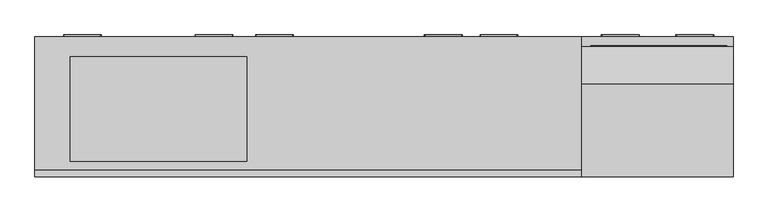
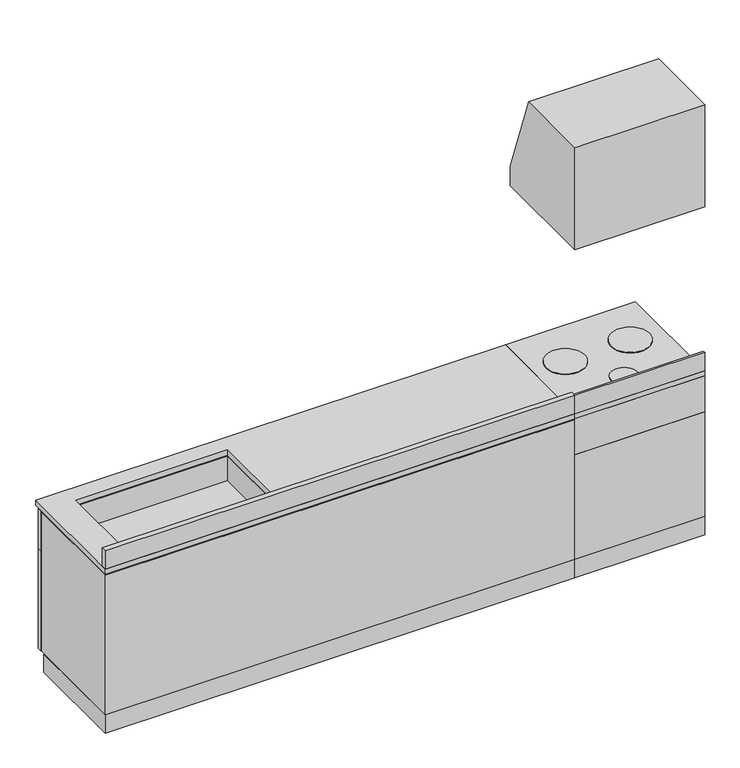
"""IFC4 building model written with IfcOpenShell, lengths in millimetres: flow terminal geometry."""

from ifc_helpers import new_model, si_unit, point, frame, frame_2d, origin, place, context, project, spatial, polyline, circle_curve, ellipse_curve, trimmed, segment, composite_curve, outline, extrude, faceted_brep, source, transform, mapped, element, save
from ifc_brep_helpers import plane_surface, cylinder_surface, advanced_brep


def flow_terminal_3a985401(model_context):
    return source(origin(), model_context, "Body", "SolidModel", [
        extrude(outline(polyline([(0.0, 1600.0), (0.0, 2099.0082413), (369.4428062, 2099.0082413), (516.4897805, 1695.0), (516.4897805, 1600.0), (0.0, 1600.0)])), frame((-600.0, 0.0, 0.0), z_axis=(1.0, 0.0, 0.0), x_axis=(0.0, 1.0, 0.0)), (0.0, 0.0, 1.0), 600.0),
        extrude(outline(polyline([(-24.5306616, 520.5154649), (-24.5306616, 516.4897805), (-564.5306616, 516.4897805), (-564.5306616, 520.5154649), (-24.5306616, 520.5154649)])), frame((0.0, 0.0, 1619.5443084), z_axis=(0.0, 0.0, 1.0), x_axis=(1.0, 0.0, 0.0)), (0.0, 0.0, 1.0), 40.0),
        extrude(outline(polyline([(0.0, 0.0), (-600.0, 0.0), (-600.0, 9.8381791), (0.0, 9.8381791), (0.0, 0.0)])), frame((0.0, 0.0, 800.0), z_axis=(0.0, 0.0, 1.0), x_axis=(1.0, 0.0, 0.0)), (0.0, 0.0, 1.0), 90.0),
        extrude(outline(polyline([(0.0, 0.0), (-600.0, 0.0), (-600.0, 540.0), (0.0, 540.0), (0.0, 0.0)])), frame((0.0, 0.0, 600.0), z_axis=(0.0, 0.0, 1.0), x_axis=(1.0, 0.0, 0.0)), (0.0, 0.0, 1.0), 175.0),
        faceted_brep([(0.0, 0.0, 600.0), (0.0, 516.4897805, 600.0), (-600.0, 516.4897805, 600.0), (-600.0, 0.0, 600.0), (-600.0, 0.0, 88.5), (-600.0, 540.0, 88.5), (-307.8169644, 540.0, 88.5), (-307.8169644, 516.4897805, 88.5), (-292.8169644, 516.4897805, 88.5), (-292.8169644, 540.0, 88.5), (0.0, 540.0, 88.5), (0.0, 0.0, 88.5), (-600.0, 516.4897805, 590.0), (-600.0, 540.0, 590.0), (-292.8169644, 540.0, 590.0), (0.0, 540.0, 590.0), (-307.8169644, 540.0, 590.0), (0.0, 516.4897805, 590.0), (-307.8169644, 516.4897805, 590.0), (-292.8169644, 516.4897805, 590.0)], [[[0, 1, 2, 3]], [[4, 5, 6, 7, 8, 9, 10, 11]], [[4, 3, 2, 12, 13, 5]], [[9, 14, 15, 10]], [[5, 13, 16, 6]], [[10, 15, 17, 1, 0, 11]], [[3, 4, 11, 0]], [[18, 12, 2, 1, 17, 19, 8, 7]], [[18, 16, 13, 12]], [[17, 15, 14, 19]], [[19, 14, 9, 8]], [[7, 6, 16, 18]]]),
        extrude(outline(composite_curve([segment(trimmed(circle_curve(frame_2d((-300.0, 124.5419688)), 60.0), [point((-360.0, 124.5419688))], [point((-240.0, 124.5419688))], False, "CARTESIAN"), True, "CONTINUOUS"), segment(trimmed(circle_curve(frame_2d((-300.0, 124.5419688)), 60.0), [point((-240.0, 124.5419688))], [point((-360.0, 124.5419688))], False, "CARTESIAN"), True, "CONTINUOUS")], self_intersect=False)), frame((0.0, 0.0, 800.0), z_axis=(0.0, 0.0, 1.0), x_axis=(1.0, 0.0, 0.0)), (0.0, 0.0, 1.0), 3.4559593),
        extrude(outline(composite_curve([segment(trimmed(circle_curve(frame_2d((-152.4677396, 331.6593351)), 89.0934112), [point((-241.5611508, 331.6593351))], [point((-63.3743285, 331.6593351))], False, "CARTESIAN"), True, "CONTINUOUS"), segment(trimmed(circle_curve(frame_2d((-152.4677396, 331.6593351)), 89.0934112), [point((-63.3743285, 331.6593351))], [point((-241.5611508, 331.6593351))], False, "CARTESIAN"), True, "CONTINUOUS")], self_intersect=False)), frame((0.0, 0.0, 800.0), z_axis=(0.0, 0.0, 1.0), x_axis=(1.0, 0.0, 0.0)), (0.0, 0.0, 1.0), 3.4559593),
        extrude(outline(composite_curve([segment(trimmed(circle_curve(frame_2d((-452.4677396, 331.6593351)), 89.0934112), [point((-541.5611508, 331.6593351))], [point((-363.3743285, 331.6593351))], False, "CARTESIAN"), True, "CONTINUOUS"), segment(trimmed(circle_curve(frame_2d((-452.4677396, 331.6593351)), 89.0934112), [point((-363.3743285, 331.6593351))], [point((-541.5611508, 331.6593351))], False, "CARTESIAN"), True, "CONTINUOUS")], self_intersect=False)), frame((0.0, 0.0, 800.0), z_axis=(0.0, 0.0, 1.0), x_axis=(1.0, 0.0, 0.0)), (0.0, 0.0, 1.0), 3.4559593),
        extrude(outline(polyline([(0.0, 0.0), (-600.0, 0.0), (-600.0, 555.0), (0.0, 555.0), (0.0, 0.0)])), frame((0.0, 0.0, 775.0), z_axis=(0.0, 0.0, 1.0), x_axis=(1.0, 0.0, 0.0)), (0.0, 0.0, 1.0), 25.0),
        advanced_brep(
        [(-227.6629348, 537.5962435, 549.478406), (-217.6629348, 537.5962435, 549.478406), (-217.6629348, 552.5962435, 549.478406), (-227.6629348, 562.5962435, 549.478406), (-87.6629348, 552.5962435, 549.478406), (-77.6629348, 562.5962435, 549.478406), (-77.6629348, 537.5962435, 549.478406), (-87.6629348, 537.5962435, 549.478406)],
        [
            (0, 1, circle_curve(frame((-222.6629348, 537.5962435, 549.478406), z_axis=(0.0, -1.0, 0.0), x_axis=(1.0, 0.0, 0.0)), 5.0)),
            (1, 0, circle_curve(frame((-222.6629348, 537.5962435, 549.478406), z_axis=(0.0, -1.0, 0.0), x_axis=(1.0, 0.0, 0.0)), 5.0)),
            (1, 2),
            (2, 3, ellipse_curve(frame((-222.6629348, 557.5962435, 549.478406), z_axis=(-0.7071067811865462, -0.7071067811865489, 0.0), x_axis=(0.707106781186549, -0.707106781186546, 0.0)), 7.0710678, 5.0)),
            (3, 0),
            (3, 2, ellipse_curve(frame((-222.6629348, 557.5962435, 549.478406), z_axis=(-0.7071067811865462, -0.7071067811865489, 0.0), x_axis=(0.707106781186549, -0.707106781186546, 0.0)), 7.0710678, 5.0)),
            (2, 4),
            (4, 5, ellipse_curve(frame((-82.6629348, 557.5962435, 549.478406), z_axis=(-0.7071067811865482, 0.7071067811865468, 0.0), x_axis=(-0.7071067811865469, -0.7071067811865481, 0.0)), 7.0710678, 5.0)),
            (5, 3),
            (5, 4, ellipse_curve(frame((-82.6629348, 557.5962435, 549.478406), z_axis=(-0.7071067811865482, 0.7071067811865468, 0.0), x_axis=(-0.7071067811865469, -0.7071067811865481, 0.0)), 7.0710678, 5.0)),
            (6, 7, circle_curve(frame((-82.6629348, 537.5962435, 549.478406), z_axis=(0.0, -1.0, 0.0), x_axis=(-1.0, 0.0, 0.0)), 5.0)),
            (7, 6, circle_curve(frame((-82.6629348, 537.5962435, 549.478406), z_axis=(0.0, -1.0, 0.0), x_axis=(-1.0, 0.0, 0.0)), 5.0)),
            (4, 7),
            (6, 5),
        ],
        [
            plane_surface(frame((-222.6629348, 537.5962435, 0.0), z_axis=(0.0, -1.0, 0.0), x_axis=(0.0, 0.0, 1.0))),
            cylinder_surface(frame((-222.6629348, 537.5962435, 549.478406), z_axis=(0.0, -1.0, 0.0), x_axis=(1.0, 0.0, 0.0)), 5.0),
            cylinder_surface(frame((-222.6629348, 557.5962435, 549.478406), z_axis=(-1.0, 0.0, 0.0), x_axis=(0.0, -1.0, 0.0)), 5.0),
            plane_surface(frame((-82.6629348, 537.5962435, 0.0), z_axis=(0.0, -1.0, 0.0), x_axis=(0.0, 0.0, 1.0))),
            cylinder_surface(frame((-82.6629348, 557.5962435, 549.478406), z_axis=(0.0, 1.0, 0.0), x_axis=(-1.0, 0.0, 0.0)), 5.0),
        ],
        [
            (0, [[1, 2]]),
            (1, [[3, 4, 5, -2]]),
            (1, [[-5, 6, -3, -1]]),
            (2, [[7, 8, 9, -4]]),
            (2, [[-9, 10, -7, -6]]),
            (3, [[11, 12]]),
            (4, [[13, -11, 14, -8]]),
            (4, [[-14, -12, -13, -10]]),
        ],
    ),
        advanced_brep(
        [(-522.1659599, 537.5962435, 552.9843944), (-512.1659599, 537.5962435, 552.9843944), (-512.1659599, 552.5962435, 552.9843944), (-522.1659599, 562.5962435, 552.9843944), (-382.1659599, 552.5962435, 552.9843944), (-372.1659599, 562.5962435, 552.9843944), (-372.1659599, 537.5962435, 552.9843944), (-382.1659599, 537.5962435, 552.9843944)],
        [
            (0, 1, circle_curve(frame((-517.1659599, 537.5962435, 552.9843944), z_axis=(0.0, -1.0, 0.0), x_axis=(1.0, 0.0, 0.0)), 5.0)),
            (1, 0, circle_curve(frame((-517.1659599, 537.5962435, 552.9843944), z_axis=(0.0, -1.0, 0.0), x_axis=(1.0, 0.0, 0.0)), 5.0)),
            (1, 2),
            (2, 3, ellipse_curve(frame((-517.1659599, 557.5962435, 552.9843944), z_axis=(-0.7071067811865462, -0.7071067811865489, 0.0), x_axis=(0.707106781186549, -0.707106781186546, 0.0)), 7.0710678, 5.0)),
            (3, 0),
            (3, 2, ellipse_curve(frame((-517.1659599, 557.5962435, 552.9843944), z_axis=(-0.7071067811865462, -0.7071067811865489, 0.0), x_axis=(0.707106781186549, -0.707106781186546, 0.0)), 7.0710678, 5.0)),
            (2, 4),
            (4, 5, ellipse_curve(frame((-377.1659599, 557.5962435, 552.9843944), z_axis=(-0.7071067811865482, 0.7071067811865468, 0.0), x_axis=(-0.7071067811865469, -0.7071067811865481, 0.0)), 7.0710678, 5.0)),
            (5, 3),
            (5, 4, ellipse_curve(frame((-377.1659599, 557.5962435, 552.9843944), z_axis=(-0.7071067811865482, 0.7071067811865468, 0.0), x_axis=(-0.7071067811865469, -0.7071067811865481, 0.0)), 7.0710678, 5.0)),
            (6, 7, circle_curve(frame((-377.1659599, 537.5962435, 552.9843944), z_axis=(0.0, -1.0, 0.0), x_axis=(-1.0, 0.0, 0.0)), 5.0)),
            (7, 6, circle_curve(frame((-377.1659599, 537.5962435, 552.9843944), z_axis=(0.0, -1.0, 0.0), x_axis=(-1.0, 0.0, 0.0)), 5.0)),
            (4, 7),
            (6, 5),
        ],
        [
            plane_surface(frame((-517.1659599, 537.5962435, 0.0), z_axis=(0.0, -1.0, 0.0), x_axis=(0.0, 0.0, 1.0))),
            cylinder_surface(frame((-517.1659599, 537.5962435, 552.9843944), z_axis=(0.0, -1.0, 0.0), x_axis=(1.0, 0.0, 0.0)), 5.0),
            cylinder_surface(frame((-517.1659599, 557.5962435, 552.9843944), z_axis=(-1.0, 0.0, 0.0), x_axis=(0.0, -1.0, 0.0)), 5.0),
            plane_surface(frame((-377.1659599, 537.5962435, 0.0), z_axis=(0.0, -1.0, 0.0), x_axis=(0.0, 0.0, 1.0))),
            cylinder_surface(frame((-377.1659599, 557.5962435, 552.9843944), z_axis=(0.0, 1.0, 0.0), x_axis=(-1.0, 0.0, 0.0)), 5.0),
        ],
        [
            (0, [[1, 2]]),
            (1, [[3, 4, 5, -2]]),
            (1, [[-5, 6, -3, -1]]),
            (2, [[7, 8, 9, -4]]),
            (2, [[-9, 10, -7, -6]]),
            (3, [[11, 12]]),
            (4, [[13, -11, 14, -8]]),
            (4, [[-14, -12, -13, -10]]),
        ],
    ),
        extrude(outline(polyline([(0.0, 0.0), (-600.0, 0.0), (-600.0, 490.0), (0.0, 490.0), (0.0, 0.0)])), frame((0.0, 0.0, -0.5), z_axis=(0.0, 0.0, 1.0), x_axis=(1.0, 0.0, 0.0)), (0.0, 0.0, 1.0), 89.0),
        advanced_brep(
        [(-1225.0760722, 537.5962435, 714.2598605), (-1215.0760722, 537.5962435, 714.2598605), (-1225.0760722, 562.5962435, 714.2598605), (-1215.0760722, 552.5962435, 714.2598605), (-1075.0760722, 562.5962435, 714.2598605), (-1085.0760722, 552.5962435, 714.2598605), (-1075.0760722, 537.5962435, 714.2598605), (-1085.0760722, 537.5962435, 714.2598605)],
        [
            (0, 1, circle_curve(frame((-1220.0760722, 537.5962435, 714.2598605), z_axis=(0.0, -1.0, 0.0), x_axis=(1.0, 0.0, 0.0)), 5.0)),
            (1, 0, circle_curve(frame((-1220.0760722, 537.5962435, 714.2598605), z_axis=(0.0, -1.0, 0.0), x_axis=(1.0, 0.0, 0.0)), 5.0)),
            (0, 2),
            (2, 3, ellipse_curve(frame((-1220.0760722, 557.5962435, 714.2598605), z_axis=(-0.7071067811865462, -0.7071067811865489, 0.0), x_axis=(0.707106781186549, -0.707106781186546, 0.0)), 7.0710678, 5.0)),
            (3, 1),
            (3, 2, ellipse_curve(frame((-1220.0760722, 557.5962435, 714.2598605), z_axis=(-0.7071067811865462, -0.7071067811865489, 0.0), x_axis=(0.707106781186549, -0.707106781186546, 0.0)), 7.0710678, 5.0)),
            (2, 4),
            (4, 5, ellipse_curve(frame((-1080.0760722, 557.5962435, 714.2598605), z_axis=(-0.7071067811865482, 0.7071067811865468, 0.0), x_axis=(-0.7071067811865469, -0.7071067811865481, 0.0)), 7.0710678, 5.0)),
            (5, 3),
            (5, 4, ellipse_curve(frame((-1080.0760722, 557.5962435, 714.2598605), z_axis=(-0.7071067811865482, 0.7071067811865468, 0.0), x_axis=(-0.7071067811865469, -0.7071067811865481, 0.0)), 7.0710678, 5.0)),
            (6, 7, circle_curve(frame((-1080.0760722, 537.5962435, 714.2598605), z_axis=(0.0, -1.0, 0.0), x_axis=(-1.0, 0.0, 0.0)), 5.0)),
            (7, 6, circle_curve(frame((-1080.0760722, 537.5962435, 714.2598605), z_axis=(0.0, -1.0, 0.0), x_axis=(-1.0, 0.0, 0.0)), 5.0)),
            (4, 6),
            (7, 5),
        ],
        [
            plane_surface(frame((-1220.0760722, 537.5962435, 0.0), z_axis=(0.0, -1.0, 0.0), x_axis=(0.0, 0.0, 1.0))),
            cylinder_surface(frame((-1220.0760722, 537.5962435, 714.2598605), z_axis=(0.0, -1.0, 0.0), x_axis=(1.0, 0.0, 0.0)), 5.0),
            cylinder_surface(frame((-1220.0760722, 557.5962435, 714.2598605), z_axis=(-1.0, 0.0, 0.0), x_axis=(0.0, -1.0, 0.0)), 5.0),
            plane_surface(frame((-1080.0760722, 537.5962435, 0.0), z_axis=(0.0, -1.0, 0.0), x_axis=(0.0, 0.0, 1.0))),
            cylinder_surface(frame((-1080.0760722, 557.5962435, 714.2598605), z_axis=(0.0, 1.0, 0.0), x_axis=(-1.0, 0.0, 0.0)), 5.0),
        ],
        [
            (0, [[1, 2]]),
            (1, [[-1, 3, 4, 5]]),
            (1, [[-2, -5, 6, -3]]),
            (2, [[-4, 7, 8, 9]]),
            (2, [[-6, -9, 10, -7]]),
            (3, [[11, 12]]),
            (4, [[-8, 13, -12, 14]]),
            (4, [[-10, -14, -11, -13]]),
        ],
    ),
        extrude(outline(polyline([(-1041.0, 536.4897805), (-1041.0, 516.4897805), (-1488.0, 516.4897805), (-1488.0, 536.4897805), (-1041.0, 536.4897805)])), frame((0.0, 0.0, 89.0), z_axis=(0.0, 0.0, 1.0), x_axis=(1.0, 0.0, 0.0)), (0.0, 0.0, 1.0), 686.0),
        faceted_brep([(-1930.5, 61.4897805, 650.0), (-2630.5, 61.4897805, 650.0), (-2630.5, 61.4897805, 770.0), (-1930.5, 61.4897805, 770.0), (-1930.5, 476.3747196, 650.0), (-1930.5, 476.3747196, 770.0), (-2630.5, 476.3747196, 650.0), (-2630.5, 476.3747196, 770.0), (-2735.8267278, 25.0, 770.0), (-1721.4018118, 25.0, 770.0), (-1721.4018118, 490.0, 770.0), (-2735.8267278, 490.0, 770.0), (-2735.8267278, 25.0, 481.2861972), (-2735.8267278, 490.0, 481.2861972), (-1721.4018118, 490.0, 481.2861972), (-1721.4018118, 25.0, 481.2861972)], [[[0, 1, 2, 3]], [[4, 0, 3, 5]], [[6, 4, 5, 7]], [[1, 6, 7, 2]], [[8, 9, 10, 11], [3, 2, 7, 5]], [[12, 13, 14, 15]], [[9, 8, 12, 15]], [[10, 9, 15, 14]], [[11, 10, 14, 13]], [[8, 11, 13, 12]], [[1, 0, 4, 6]]]),
        extrude(outline(polyline([(-2770.0, 0.0), (-2770.0, 508.8242978), (-600.0, 508.8242978), (-600.0, 0.0), (-2770.0, 0.0)]), holes=[polyline([(-2735.8267278, 25.0), (-649.0, 25.0), (-649.0, 490.0), (-2735.8267278, 490.0), (-2735.8267278, 25.0)])]), frame((0.0, 0.0, 90.0), z_axis=(0.0, 0.0, 1.0), x_axis=(1.0, 0.0, 0.0)), (0.0, 0.0, 1.0), 680.0),
        extrude(outline(polyline([(-2770.0, 0.0), (-2770.0, 555.0), (-600.0, 555.0), (-600.0, 0.0), (-2770.0, 0.0)]), holes=[polyline([(-2630.5, 61.4897805), (-1930.5, 61.4897805), (-1930.5, 476.3747196), (-2630.5, 476.3747196), (-2630.5, 61.4897805)])]), frame((0.0, 0.0, 775.0), z_axis=(0.0, 0.0, 1.0), x_axis=(1.0, 0.0, 0.0)), (0.0, 0.0, 1.0), 25.0),
        advanced_brep(
        [(-2506.5, 537.5962435, 514.8721474), (-2516.5, 537.5962435, 514.8721474), (-2506.5, 562.5962435, 514.8721474), (-2516.5, 552.5962435, 514.8721474), (-2656.5, 562.5962435, 514.8721474), (-2646.5, 552.5962435, 514.8721474), (-2656.5, 537.5962435, 514.8721474), (-2646.5, 537.5962435, 514.8721474)],
        [
            (0, 1, circle_curve(frame((-2511.5, 537.5962435, 514.8721474), z_axis=(0.0, -1.0, 0.0), x_axis=(-1.0, 0.0, 0.0)), 5.0)),
            (1, 0, circle_curve(frame((-2511.5, 537.5962435, 514.8721474), z_axis=(0.0, -1.0, 0.0), x_axis=(-1.0, 0.0, 0.0)), 5.0)),
            (0, 2),
            (2, 3, ellipse_curve(frame((-2511.5, 557.5962435, 514.8721474), z_axis=(0.7071067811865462, -0.7071067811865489, 0.0), x_axis=(-0.707106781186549, -0.707106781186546, 0.0)), 7.0710678, 5.0)),
            (3, 1),
            (3, 2, ellipse_curve(frame((-2511.5, 557.5962435, 514.8721474), z_axis=(0.7071067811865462, -0.7071067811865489, 0.0), x_axis=(-0.707106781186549, -0.707106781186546, 0.0)), 7.0710678, 5.0)),
            (2, 4),
            (4, 5, ellipse_curve(frame((-2651.5, 557.5962435, 514.8721474), z_axis=(0.7071067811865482, 0.7071067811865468, 0.0), x_axis=(0.7071067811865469, -0.7071067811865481, 0.0)), 7.0710678, 5.0)),
            (5, 3),
            (5, 4, ellipse_curve(frame((-2651.5, 557.5962435, 514.8721474), z_axis=(0.7071067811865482, 0.7071067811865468, 0.0), x_axis=(0.7071067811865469, -0.7071067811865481, 0.0)), 7.0710678, 5.0)),
            (6, 7, circle_curve(frame((-2651.5, 537.5962435, 514.8721474), z_axis=(0.0, -1.0, 0.0), x_axis=(1.0, 0.0, 0.0)), 5.0)),
            (7, 6, circle_curve(frame((-2651.5, 537.5962435, 514.8721474), z_axis=(0.0, -1.0, 0.0), x_axis=(1.0, 0.0, 0.0)), 5.0)),
            (4, 6),
            (7, 5),
        ],
        [
            plane_surface(frame((-2511.5, 537.5962435, -199.3877131), z_axis=(0.0, -1.0, 0.0), x_axis=(0.0, 0.0, 1.0))),
            cylinder_surface(frame((-2511.5, 537.5962435, 514.8721474), z_axis=(0.0, -1.0, 0.0), x_axis=(-1.0, 0.0, 0.0)), 5.0),
            cylinder_surface(frame((-2511.5, 557.5962435, 514.8721474), z_axis=(1.0, 0.0, 0.0), x_axis=(0.0, -1.0, 0.0)), 5.0),
            plane_surface(frame((-2651.5, 537.5962435, -199.3877131), z_axis=(0.0, -1.0, 0.0), x_axis=(0.0, 0.0, 1.0))),
            cylinder_surface(frame((-2651.5, 557.5962435, 514.8721474), z_axis=(0.0, 1.0, 0.0), x_axis=(1.0, 0.0, 0.0)), 5.0),
        ],
        [
            (0, [[1, 2]]),
            (1, [[-1, 3, 4, 5]]),
            (1, [[-2, -5, 6, -3]]),
            (2, [[-4, 7, 8, 9]]),
            (2, [[-6, -9, 10, -7]]),
            (3, [[11, 12]]),
            (4, [[-8, 13, -12, 14]]),
            (4, [[-10, -14, -11, -13]]),
        ],
    ),
        advanced_brep(
        [(-2506.5, 537.5962435, 714.2598605), (-2516.5, 537.5962435, 714.2598605), (-2506.5, 562.5962435, 714.2598605), (-2516.5, 552.5962435, 714.2598605), (-2656.5, 562.5962435, 714.2598605), (-2646.5, 552.5962435, 714.2598605), (-2656.5, 537.5962435, 714.2598605), (-2646.5, 537.5962435, 714.2598605)],
        [
            (0, 1, circle_curve(frame((-2511.5, 537.5962435, 714.2598605), z_axis=(0.0, -1.0, 0.0), x_axis=(-1.0, 0.0, 0.0)), 5.0)),
            (1, 0, circle_curve(frame((-2511.5, 537.5962435, 714.2598605), z_axis=(0.0, -1.0, 0.0), x_axis=(-1.0, 0.0, 0.0)), 5.0)),
            (0, 2),
            (2, 3, ellipse_curve(frame((-2511.5, 557.5962435, 714.2598605), z_axis=(0.7071067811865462, -0.7071067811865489, 0.0), x_axis=(-0.707106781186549, -0.707106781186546, 0.0)), 7.0710678, 5.0)),
            (3, 1),
            (3, 2, ellipse_curve(frame((-2511.5, 557.5962435, 714.2598605), z_axis=(0.7071067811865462, -0.7071067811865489, 0.0), x_axis=(-0.707106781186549, -0.707106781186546, 0.0)), 7.0710678, 5.0)),
            (2, 4),
            (4, 5, ellipse_curve(frame((-2651.5, 557.5962435, 714.2598605), z_axis=(0.7071067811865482, 0.7071067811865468, 0.0), x_axis=(0.7071067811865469, -0.7071067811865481, 0.0)), 7.0710678, 5.0)),
            (5, 3),
            (5, 4, ellipse_curve(frame((-2651.5, 557.5962435, 714.2598605), z_axis=(0.7071067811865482, 0.7071067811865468, 0.0), x_axis=(0.7071067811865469, -0.7071067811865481, 0.0)), 7.0710678, 5.0)),
            (6, 7, circle_curve(frame((-2651.5, 537.5962435, 714.2598605), z_axis=(0.0, -1.0, 0.0), x_axis=(1.0, 0.0, 0.0)), 5.0)),
            (7, 6, circle_curve(frame((-2651.5, 537.5962435, 714.2598605), z_axis=(0.0, -1.0, 0.0), x_axis=(1.0, 0.0, 0.0)), 5.0)),
            (4, 6),
            (7, 5),
        ],
        [
            plane_surface(frame((-2511.5, 537.5962435, 0.0), z_axis=(0.0, -1.0, 0.0), x_axis=(0.0, 0.0, 1.0))),
            cylinder_surface(frame((-2511.5, 537.5962435, 714.2598605), z_axis=(0.0, -1.0, 0.0), x_axis=(-1.0, 0.0, 0.0)), 5.0),
            cylinder_surface(frame((-2511.5, 557.5962435, 714.2598605), z_axis=(1.0, 0.0, 0.0), x_axis=(0.0, -1.0, 0.0)), 5.0),
            plane_surface(frame((-2651.5, 537.5962435, 0.0), z_axis=(0.0, -1.0, 0.0), x_axis=(0.0, 0.0, 1.0))),
            cylinder_surface(frame((-2651.5, 557.5962435, 714.2598605), z_axis=(0.0, 1.0, 0.0), x_axis=(1.0, 0.0, 0.0)), 5.0),
        ],
        [
            (0, [[1, 2]]),
            (1, [[-1, 3, 4, 5]]),
            (1, [[-2, -5, 6, -3]]),
            (2, [[-4, 7, 8, 9]]),
            (2, [[-6, -9, 10, -7]]),
            (3, [[11, 12]]),
            (4, [[-8, 13, -12, 14]]),
            (4, [[-10, -14, -11, -13]]),
        ],
    ),
        advanced_brep(
        [(-1984.2695695, 537.5962435, 714.2598605), (-1994.2695695, 537.5962435, 714.2598605), (-1984.2695695, 562.5962435, 714.2598605), (-1994.2695695, 552.5962435, 714.2598605), (-2134.2695695, 562.5962435, 714.2598605), (-2124.2695695, 552.5962435, 714.2598605), (-2134.2695695, 537.5962435, 714.2598605), (-2124.2695695, 537.5962435, 714.2598605)],
        [
            (0, 1, circle_curve(frame((-1989.2695695, 537.5962435, 714.2598605), z_axis=(0.0, -1.0, 0.0), x_axis=(-1.0, 0.0, 0.0)), 5.0)),
            (1, 0, circle_curve(frame((-1989.2695695, 537.5962435, 714.2598605), z_axis=(0.0, -1.0, 0.0), x_axis=(-1.0, 0.0, 0.0)), 5.0)),
            (0, 2),
            (2, 3, ellipse_curve(frame((-1989.2695695, 557.5962435, 714.2598605), z_axis=(0.7071067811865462, -0.7071067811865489, 0.0), x_axis=(-0.707106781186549, -0.707106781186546, 0.0)), 7.0710678, 5.0)),
            (3, 1),
            (3, 2, ellipse_curve(frame((-1989.2695695, 557.5962435, 714.2598605), z_axis=(0.7071067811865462, -0.7071067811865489, 0.0), x_axis=(-0.707106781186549, -0.707106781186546, 0.0)), 7.0710678, 5.0)),
            (2, 4),
            (4, 5, ellipse_curve(frame((-2129.2695695, 557.5962435, 714.2598605), z_axis=(0.7071067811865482, 0.7071067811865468, 0.0), x_axis=(0.7071067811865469, -0.7071067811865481, 0.0)), 7.0710678, 5.0)),
            (5, 3),
            (5, 4, ellipse_curve(frame((-2129.2695695, 557.5962435, 714.2598605), z_axis=(0.7071067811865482, 0.7071067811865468, 0.0), x_axis=(0.7071067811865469, -0.7071067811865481, 0.0)), 7.0710678, 5.0)),
            (6, 7, circle_curve(frame((-2129.2695695, 537.5962435, 714.2598605), z_axis=(0.0, -1.0, 0.0), x_axis=(1.0, 0.0, 0.0)), 5.0)),
            (7, 6, circle_curve(frame((-2129.2695695, 537.5962435, 714.2598605), z_axis=(0.0, -1.0, 0.0), x_axis=(1.0, 0.0, 0.0)), 5.0)),
            (4, 6),
            (7, 5),
        ],
        [
            plane_surface(frame((-1989.2695695, 537.5962435, 0.0), z_axis=(0.0, -1.0, 0.0), x_axis=(0.0, 0.0, 1.0))),
            cylinder_surface(frame((-1989.2695695, 537.5962435, 714.2598605), z_axis=(0.0, -1.0, 0.0), x_axis=(-1.0, 0.0, 0.0)), 5.0),
            cylinder_surface(frame((-1989.2695695, 557.5962435, 714.2598605), z_axis=(1.0, 0.0, 0.0), x_axis=(0.0, -1.0, 0.0)), 5.0),
            plane_surface(frame((-2129.2695695, 537.5962435, 0.0), z_axis=(0.0, -1.0, 0.0), x_axis=(0.0, 0.0, 1.0))),
            cylinder_surface(frame((-2129.2695695, 557.5962435, 714.2598605), z_axis=(0.0, 1.0, 0.0), x_axis=(1.0, 0.0, 0.0)), 5.0),
        ],
        [
            (0, [[1, 2]]),
            (1, [[-1, 3, 4, 5]]),
            (1, [[-2, -5, 6, -3]]),
            (2, [[-4, 7, 8, 9]]),
            (2, [[-6, -9, 10, -7]]),
            (3, [[11, 12]]),
            (4, [[-8, 13, -12, 14]]),
            (4, [[-10, -14, -11, -13]]),
        ],
    ),
        advanced_brep(
        [(-1744.4239278, 537.5962435, 714.2598605), (-1754.4239278, 537.5962435, 714.2598605), (-1744.4239278, 562.5962435, 714.2598605), (-1754.4239278, 552.5962435, 714.2598605), (-1894.4239278, 562.5962435, 714.2598605), (-1884.4239278, 552.5962435, 714.2598605), (-1894.4239278, 537.5962435, 714.2598605), (-1884.4239278, 537.5962435, 714.2598605)],
        [
            (0, 1, circle_curve(frame((-1749.4239278, 537.5962435, 714.2598605), z_axis=(0.0, -1.0, 0.0), x_axis=(-1.0, 0.0, 0.0)), 5.0)),
            (1, 0, circle_curve(frame((-1749.4239278, 537.5962435, 714.2598605), z_axis=(0.0, -1.0, 0.0), x_axis=(-1.0, 0.0, 0.0)), 5.0)),
            (0, 2),
            (2, 3, ellipse_curve(frame((-1749.4239278, 557.5962435, 714.2598605), z_axis=(0.7071067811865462, -0.7071067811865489, 0.0), x_axis=(-0.707106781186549, -0.707106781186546, 0.0)), 7.0710678, 5.0)),
            (3, 1),
            (3, 2, ellipse_curve(frame((-1749.4239278, 557.5962435, 714.2598605), z_axis=(0.7071067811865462, -0.7071067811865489, 0.0), x_axis=(-0.707106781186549, -0.707106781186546, 0.0)), 7.0710678, 5.0)),
            (2, 4),
            (4, 5, ellipse_curve(frame((-1889.4239278, 557.5962435, 714.2598605), z_axis=(0.7071067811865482, 0.7071067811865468, 0.0), x_axis=(0.7071067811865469, -0.7071067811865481, 0.0)), 7.0710678, 5.0)),
            (5, 3),
            (5, 4, ellipse_curve(frame((-1889.4239278, 557.5962435, 714.2598605), z_axis=(0.7071067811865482, 0.7071067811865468, 0.0), x_axis=(0.7071067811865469, -0.7071067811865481, 0.0)), 7.0710678, 5.0)),
            (6, 7, circle_curve(frame((-1889.4239278, 537.5962435, 714.2598605), z_axis=(0.0, -1.0, 0.0), x_axis=(1.0, 0.0, 0.0)), 5.0)),
            (7, 6, circle_curve(frame((-1889.4239278, 537.5962435, 714.2598605), z_axis=(0.0, -1.0, 0.0), x_axis=(1.0, 0.0, 0.0)), 5.0)),
            (4, 6),
            (7, 5),
        ],
        [
            plane_surface(frame((-1749.4239278, 537.5962435, 0.0), z_axis=(0.0, -1.0, 0.0), x_axis=(0.0, 0.0, 1.0))),
            cylinder_surface(frame((-1749.4239278, 537.5962435, 714.2598605), z_axis=(0.0, -1.0, 0.0), x_axis=(-1.0, 0.0, 0.0)), 5.0),
            cylinder_surface(frame((-1749.4239278, 557.5962435, 714.2598605), z_axis=(1.0, 0.0, 0.0), x_axis=(0.0, -1.0, 0.0)), 5.0),
            plane_surface(frame((-1889.4239278, 537.5962435, 0.0), z_axis=(0.0, -1.0, 0.0), x_axis=(0.0, 0.0, 1.0))),
            cylinder_surface(frame((-1889.4239278, 557.5962435, 714.2598605), z_axis=(0.0, 1.0, 0.0), x_axis=(1.0, 0.0, 0.0)), 5.0),
        ],
        [
            (0, [[1, 2]]),
            (1, [[-1, 3, 4, 5]]),
            (1, [[-2, -5, 6, -3]]),
            (2, [[-4, 7, 8, 9]]),
            (2, [[-6, -9, 10, -7]]),
            (3, [[11, 12]]),
            (4, [[-8, 13, -12, 14]]),
            (4, [[-10, -14, -11, -13]]),
        ],
    ),
        advanced_brep(
        [(-853.9239278, 537.5962435, 714.2598605), (-863.9239278, 537.5962435, 714.2598605), (-853.9239278, 562.5962435, 714.2598605), (-863.9239278, 552.5962435, 714.2598605), (-1003.9239278, 562.5962435, 714.2598605), (-993.9239278, 552.5962435, 714.2598605), (-1003.9239278, 537.5962435, 714.2598605), (-993.9239278, 537.5962435, 714.2598605)],
        [
            (0, 1, circle_curve(frame((-858.9239278, 537.5962435, 714.2598605), z_axis=(0.0, -1.0, 0.0), x_axis=(-1.0, 0.0, 0.0)), 5.0)),
            (1, 0, circle_curve(frame((-858.9239278, 537.5962435, 714.2598605), z_axis=(0.0, -1.0, 0.0), x_axis=(-1.0, 0.0, 0.0)), 5.0)),
            (0, 2),
            (2, 3, ellipse_curve(frame((-858.9239278, 557.5962435, 714.2598605), z_axis=(0.7071067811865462, -0.7071067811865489, 0.0), x_axis=(-0.707106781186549, -0.707106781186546, 0.0)), 7.0710678, 5.0)),
            (3, 1),
            (3, 2, ellipse_curve(frame((-858.9239278, 557.5962435, 714.2598605), z_axis=(0.7071067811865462, -0.7071067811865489, 0.0), x_axis=(-0.707106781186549, -0.707106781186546, 0.0)), 7.0710678, 5.0)),
            (2, 4),
            (4, 5, ellipse_curve(frame((-998.9239278, 557.5962435, 714.2598605), z_axis=(0.7071067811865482, 0.7071067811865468, 0.0), x_axis=(0.7071067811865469, -0.7071067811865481, 0.0)), 7.0710678, 5.0)),
            (5, 3),
            (5, 4, ellipse_curve(frame((-998.9239278, 557.5962435, 714.2598605), z_axis=(0.7071067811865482, 0.7071067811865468, 0.0), x_axis=(0.7071067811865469, -0.7071067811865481, 0.0)), 7.0710678, 5.0)),
            (6, 7, circle_curve(frame((-998.9239278, 537.5962435, 714.2598605), z_axis=(0.0, -1.0, 0.0), x_axis=(1.0, 0.0, 0.0)), 5.0)),
            (7, 6, circle_curve(frame((-998.9239278, 537.5962435, 714.2598605), z_axis=(0.0, -1.0, 0.0), x_axis=(1.0, 0.0, 0.0)), 5.0)),
            (4, 6),
            (7, 5),
        ],
        [
            plane_surface(frame((-858.9239278, 537.5962435, 0.0), z_axis=(0.0, -1.0, 0.0), x_axis=(0.0, 0.0, 1.0))),
            cylinder_surface(frame((-858.9239278, 537.5962435, 714.2598605), z_axis=(0.0, -1.0, 0.0), x_axis=(-1.0, 0.0, 0.0)), 5.0),
            cylinder_surface(frame((-858.9239278, 557.5962435, 714.2598605), z_axis=(1.0, 0.0, 0.0), x_axis=(0.0, -1.0, 0.0)), 5.0),
            plane_surface(frame((-998.9239278, 537.5962435, 0.0), z_axis=(0.0, -1.0, 0.0), x_axis=(0.0, 0.0, 1.0))),
            cylinder_surface(frame((-998.9239278, 557.5962435, 714.2598605), z_axis=(0.0, 1.0, 0.0), x_axis=(1.0, 0.0, 0.0)), 5.0),
        ],
        [
            (0, [[1, 2]]),
            (1, [[-1, 3, 4, 5]]),
            (1, [[-2, -5, 6, -3]]),
            (2, [[-4, 7, 8, 9]]),
            (2, [[-6, -9, 10, -7]]),
            (3, [[11, 12]]),
            (4, [[-8, 13, -12, 14]]),
            (4, [[-10, -14, -11, -13]]),
        ],
    ),
        extrude(outline(polyline([(-2770.0, 536.4897805), (-2393.0, 536.4897805), (-2393.0, 516.4897805), (-2770.0, 516.4897805), (-2770.0, 536.4897805)])), frame((0.0, 0.0, 89.5), z_axis=(0.0, 0.0, 1.0), x_axis=(1.0, 0.0, 0.0)), (0.0, 0.0, 1.0), 484.284389),
        extrude(outline(polyline([(-2770.0, 536.4897805), (-2393.0, 536.4897805), (-2393.0, 516.4897805), (-2770.0, 516.4897805), (-2770.0, 536.4897805)])), frame((0.0, 0.0, 575.0), z_axis=(0.0, 0.0, 1.0), x_axis=(1.0, 0.0, 0.0)), (0.0, 0.0, 1.0), 195.0),
        extrude(outline(polyline([(-2388.0, 516.4897805), (-2388.0, 536.4897805), (-1941.0, 536.4897805), (-1941.0, 516.4897805), (-2388.0, 516.4897805)])), frame((0.0, 0.0, 89.0), z_axis=(0.0, 0.0, 1.0), x_axis=(1.0, 0.0, 0.0)), (0.0, 0.0, 1.0), 681.0),
        extrude(outline(polyline([(-1938.0, 516.4897805), (-1938.0, 536.4897805), (-1493.0, 536.4897805), (-1493.0, 516.4897805), (-1938.0, 516.4897805)])), frame((0.0, 0.0, 89.0), z_axis=(0.0, 0.0, 1.0), x_axis=(1.0, 0.0, 0.0)), (0.0, 0.0, 1.0), 681.0),
        extrude(outline(polyline([(-1038.0, 516.4897805), (-1038.0, 536.4897805), (-600.0, 536.4897805), (-600.0, 516.4897805), (-1038.0, 516.4897805)])), frame((0.0, 0.0, 89.0), z_axis=(0.0, 0.0, 1.0), x_axis=(1.0, 0.0, 0.0)), (0.0, 0.0, 1.0), 686.0),
        extrude(outline(polyline([(-2770.0, 0.0), (-2770.0, 490.0), (-600.0, 490.0), (-600.0, 0.0), (-2770.0, 0.0)])), frame((0.0, 0.0, -0.5), z_axis=(0.0, 0.0, 1.0), x_axis=(1.0, 0.0, 0.0)), (0.0, 0.0, 1.0), 89.0),
        extrude(outline(polyline([(-2770.0, 0.0), (-2770.0, 25.0), (-600.0, 25.0), (-600.0, 0.0), (-2770.0, 0.0)])), frame((0.0, 0.0, 800.0), z_axis=(0.0, 0.0, 1.0), x_axis=(1.0, 0.0, 0.0)), (0.0, 0.0, 1.0), 90.0),
    ])


if __name__ == "__main__":
    model = new_model("IFC4")
    model_context = context("Model", 3, world=origin())
    ifc_project = project(units=[si_unit("LENGTHUNIT", "METRE", prefix="MILLI")], contexts=[model_context])
    site = spatial("IfcSite", under=ifc_project)
    building = spatial("IfcBuilding", under=site)
    placement = place(None, origin())
    flow_terminal_shape = flow_terminal_3a985401(model_context)
    element("IfcFlowTerminal", 1, ObjectType="システムキッチンIH\u3000W2770 : システムキッチンIH\u3000W2770", at=placement, inside=building, context=model_context, shape_type="MappedRepresentation", body=[
        mapped(flow_terminal_shape, transform((0.0, 0.0, 0.0), x_axis=(1.0, 0.0, 0.0), y_axis=(0.0, 1.0, 0.0), z_axis=(0.0, 0.0, 1.0))),
    ])
    save(model, "model.ifc")
